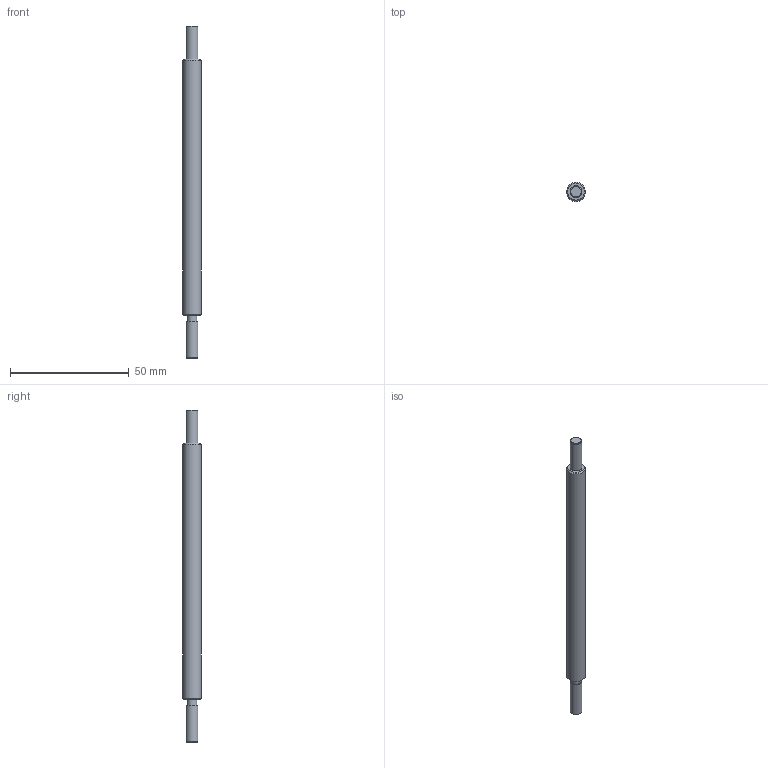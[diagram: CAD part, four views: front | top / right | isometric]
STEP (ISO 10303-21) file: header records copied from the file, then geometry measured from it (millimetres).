
FILE_DESCRIPTION(/* description */ (''),/* implementation_level */ '2;1');
FILE_NAME(/* name */ '2020TOMO-CRIMP.14.stp',/* time_stamp */ '2021-01-20T14:53:09+01:00',/* author */ (''),/* organization */ (''),/* preprocessor_version */ 'ST-DEVELOPER v16.7',/* originating_system */ 'SIEMENS PLM Software NX 1892',/* authorisation */ '');
FILE_SCHEMA (('AUTOMOTIVE_DESIGN { 1 0 10303 214 3 1 1 1 }'));
Length unit declared in the file: millimetre
Products named in the file (1): turc131041948iu3
Bounding box: 8 x 8 x 140 mm (x, y, z)
Volume: 6035.2 mm3; surface area: 3301.7 mm2
Topology: 1 solids, 1 shells, 13 faces, 21 edges, 13 vertices
Faces by surface type: plane 5, cylinder 4, cone 4
Full cylindrical faces by diameter (mm): 4.2 x1, 5 x2, 8 x1
Entity records: 286 total; most frequent: DIRECTION 52, CARTESIAN_POINT 38, AXIS2_PLACEMENT_3D 26, EDGE_LOOP 24, ORIENTED_EDGE 24, FACE_BOUND 22, ADVANCED_FACE 13, VERTEX_POINT 12
